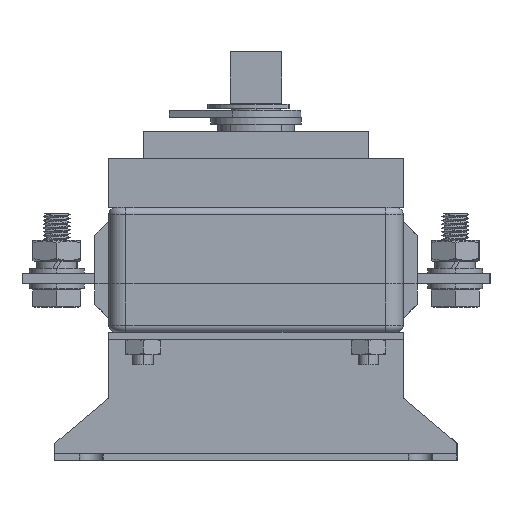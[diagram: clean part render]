
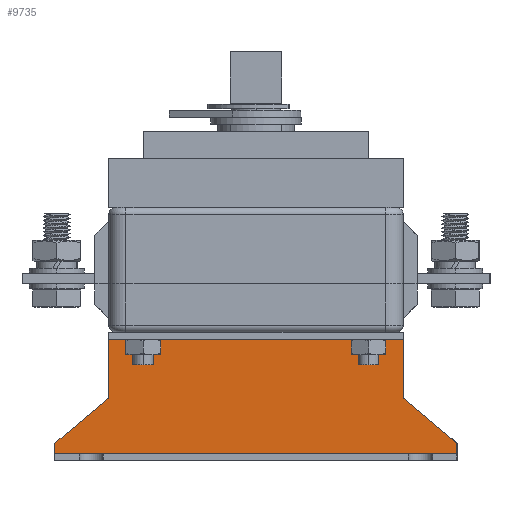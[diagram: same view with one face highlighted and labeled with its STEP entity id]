
A CAD part, left-side view. The second image highlights one B-rep face of the part: STEP entity #9735.
In plain terms, the highlighted planar face has unit normal (-1, 0, 0) as drawn and (0, 0, 1) by its records, which use the part's own axes.
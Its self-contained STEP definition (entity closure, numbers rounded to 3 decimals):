
#9178=DIRECTION('',(0.,1.,0.));
#9179=VECTOR('',#9178,17.);
#9180=CARTESIAN_POINT('',(42.5,18.,-7.));
#9181=LINE('',#9180,#9179);
#9242=DIRECTION('',(1.,0.,0.));
#9243=VECTOR('',#9242,85.);
#9244=CARTESIAN_POINT('',(-42.5,35.,-7.));
#9245=LINE('',#9244,#9243);
#9250=DIRECTION('',(-0.766,0.643,0.));
#9251=VECTOR('',#9250,20.23);
#9252=CARTESIAN_POINT('',(58.,5.,-7.));
#9253=LINE('',#9252,#9251);
#9267=DIRECTION('',(0.,-1.,0.));
#9268=VECTOR('',#9267,3.);
#9269=CARTESIAN_POINT('',(58.,5.,-7.));
#9270=LINE('',#9269,#9268);
#9309=DIRECTION('',(0.,-1.,0.));
#9310=VECTOR('',#9309,3.);
#9311=CARTESIAN_POINT('',(-58.,5.,-7.));
#9312=LINE('',#9311,#9310);
#9367=DIRECTION('',(0.,1.,0.));
#9368=VECTOR('',#9367,17.);
#9369=CARTESIAN_POINT('',(-42.5,18.,-7.));
#9370=LINE('',#9369,#9368);
#9375=DIRECTION('',(-0.766,-0.643,0.));
#9376=VECTOR('',#9375,20.23);
#9377=CARTESIAN_POINT('',(-42.5,18.,-7.));
#9378=LINE('',#9377,#9376);
#9401=DIRECTION('',(1.,0.,0.));
#9402=VECTOR('',#9401,116.);
#9403=CARTESIAN_POINT('',(-58.,2.,-7.));
#9404=LINE('',#9403,#9402);
#9521=CARTESIAN_POINT('',(58.,5.,-7.));
#9522=VERTEX_POINT('',#9521);
#9523=CARTESIAN_POINT('',(42.5,18.,-7.));
#9524=VERTEX_POINT('',#9523);
#9525=CARTESIAN_POINT('',(-42.5,18.,-7.));
#9526=VERTEX_POINT('',#9525);
#9527=CARTESIAN_POINT('',(-58.,5.,-7.));
#9528=VERTEX_POINT('',#9527);
#9529=CARTESIAN_POINT('',(42.5,35.,-7.));
#9530=VERTEX_POINT('',#9529);
#9531=CARTESIAN_POINT('',(-42.5,35.,-7.));
#9532=VERTEX_POINT('',#9531);
#9533=CARTESIAN_POINT('',(58.,2.,-7.));
#9534=VERTEX_POINT('',#9533);
#9535=CARTESIAN_POINT('',(-58.,2.,-7.));
#9536=VERTEX_POINT('',#9535);
#9714=CARTESIAN_POINT('',(-58.,35.,-7.));
#9715=DIRECTION('',(0.,0.,-1.));
#9716=DIRECTION('',(0.,-1.,0.));
#9717=AXIS2_PLACEMENT_3D('',#9714,#9715,#9716);
#9718=PLANE('',#9717);
#9719=ORIENTED_EDGE('',*,*,#9612,.F.);
#9721=ORIENTED_EDGE('',*,*,#9720,.F.);
#9723=ORIENTED_EDGE('',*,*,#9722,.T.);
#9725=ORIENTED_EDGE('',*,*,#9724,.F.);
#9727=ORIENTED_EDGE('',*,*,#9726,.F.);
#9729=ORIENTED_EDGE('',*,*,#9728,.F.);
#9731=ORIENTED_EDGE('',*,*,#9730,.T.);
#9732=ORIENTED_EDGE('',*,*,#9697,.T.);
#9733=EDGE_LOOP('',(#9719,#9721,#9723,#9725,#9727,#9729,#9731,#9732));
#9734=FACE_OUTER_BOUND('',#9733,.F.);
#9735=ADVANCED_FACE('',(#9734),#9718,.F.);
#9612=EDGE_CURVE('',#9524,#9530,#9181,.T.);
#9697=EDGE_CURVE('',#9532,#9530,#9245,.T.);
#9720=EDGE_CURVE('',#9522,#9524,#9253,.T.);
#9722=EDGE_CURVE('',#9522,#9534,#9270,.T.);
#9724=EDGE_CURVE('',#9536,#9534,#9404,.T.);
#9726=EDGE_CURVE('',#9528,#9536,#9312,.T.);
#9728=EDGE_CURVE('',#9526,#9528,#9378,.T.);
#9730=EDGE_CURVE('',#9526,#9532,#9370,.T.);
